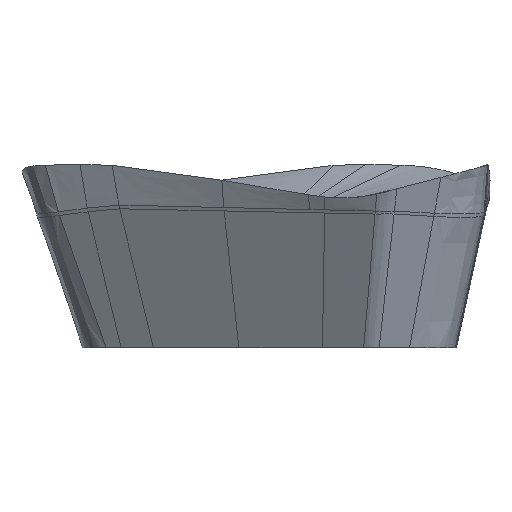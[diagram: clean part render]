
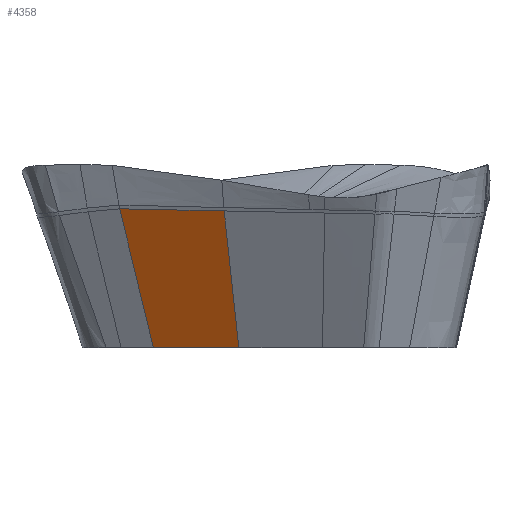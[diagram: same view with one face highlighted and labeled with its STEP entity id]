
A CAD part, left-side view. The second image highlights one B-rep face of the part: STEP entity #4358.
In plain terms, the highlighted free-form (B-spline) face has degree [5, 5] with [6, 6] control points.
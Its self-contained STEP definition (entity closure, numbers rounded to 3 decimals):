
#3545=CARTESIAN_POINT('Vertex',(-2.642,1.525,0.)) ;
#3549=CARTESIAN_POINT('Control Point',(-1.592,3.326,0.)) ;
#3550=CARTESIAN_POINT('Control Point',(-1.78,3.003,0.)) ;
#3551=CARTESIAN_POINT('Control Point',(-1.97,2.677,0.)) ;
#3552=CARTESIAN_POINT('Control Point',(-2.158,2.354,0.)) ;
#3553=CARTESIAN_POINT('Control Point',(-2.369,1.992,0.)) ;
#3554=CARTESIAN_POINT('Control Point',(-2.579,1.632,0.)) ;
#3555=CARTESIAN_POINT('Control Point',(-2.6,1.596,0.)) ;
#3556=CARTESIAN_POINT('Control Point',(-2.621,1.561,0.)) ;
#3557=CARTESIAN_POINT('Control Point',(-2.642,1.525,0.)) ;
#3558=CARTESIAN_POINT('Vertex',(-1.592,3.326,0.)) ;
#4273=CARTESIAN_POINT('Control Point',(-1.592,3.326,0.)) ;
#4274=CARTESIAN_POINT('Control Point',(-1.654,3.468,0.585)) ;
#4275=CARTESIAN_POINT('Control Point',(-1.717,3.61,1.17)) ;
#4276=CARTESIAN_POINT('Control Point',(-1.779,3.751,1.755)) ;
#4277=CARTESIAN_POINT('Control Point',(-1.842,3.893,2.34)) ;
#4278=CARTESIAN_POINT('Control Point',(-1.905,4.035,2.925)) ;
#4279=CARTESIAN_POINT('Vertex',(-1.905,4.035,2.925)) ;
#4298=CARTESIAN_POINT('Control Point',(-1.57,3.277,-0.2)) ;
#4299=CARTESIAN_POINT('Control Point',(-1.777,2.922,-0.2)) ;
#4300=CARTESIAN_POINT('Control Point',(-1.983,2.569,-0.2)) ;
#4301=CARTESIAN_POINT('Control Point',(-2.192,2.211,-0.2)) ;
#4302=CARTESIAN_POINT('Control Point',(-2.397,1.86,-0.2)) ;
#4303=CARTESIAN_POINT('Control Point',(-2.605,1.503,-0.2)) ;
#4304=CARTESIAN_POINT('Control Point',(-1.637,3.429,0.425)) ;
#4305=CARTESIAN_POINT('Control Point',(-1.844,3.074,0.425)) ;
#4306=CARTESIAN_POINT('Control Point',(-2.064,2.695,0.422)) ;
#4307=CARTESIAN_POINT('Control Point',(-2.292,2.303,0.419)) ;
#4308=CARTESIAN_POINT('Control Point',(-2.511,1.926,0.416)) ;
#4309=CARTESIAN_POINT('Control Point',(-2.719,1.569,0.416)) ;
#4310=CARTESIAN_POINT('Control Point',(-1.704,3.58,1.05)) ;
#4311=CARTESIAN_POINT('Control Point',(-1.925,3.2,1.047)) ;
#4312=CARTESIAN_POINT('Control Point',(-2.153,2.807,1.043)) ;
#4313=CARTESIAN_POINT('Control Point',(-2.384,2.409,1.039)) ;
#4314=CARTESIAN_POINT('Control Point',(-2.612,2.017,1.035)) ;
#4315=CARTESIAN_POINT('Control Point',(-2.833,1.636,1.032)) ;
#4316=CARTESIAN_POINT('Control Point',(-1.771,3.732,1.675)) ;
#4317=CARTESIAN_POINT('Control Point',(-2.011,3.318,1.669)) ;
#4318=CARTESIAN_POINT('Control Point',(-2.244,2.915,1.664)) ;
#4319=CARTESIAN_POINT('Control Point',(-2.474,2.519,1.659)) ;
#4320=CARTESIAN_POINT('Control Point',(-2.708,2.116,1.654)) ;
#4321=CARTESIAN_POINT('Control Point',(-2.948,1.702,1.648)) ;
#4322=CARTESIAN_POINT('Control Point',(-1.838,3.884,2.3)) ;
#4323=CARTESIAN_POINT('Control Point',(-2.092,3.444,2.291)) ;
#4324=CARTESIAN_POINT('Control Point',(-2.333,3.027,2.285)) ;
#4325=CARTESIAN_POINT('Control Point',(-2.567,2.625,2.28)) ;
#4326=CARTESIAN_POINT('Control Point',(-2.809,2.207,2.273)) ;
#4327=CARTESIAN_POINT('Control Point',(-3.062,1.768,2.264)) ;
#4328=CARTESIAN_POINT('Control Point',(-1.905,4.035,2.925)) ;
#4329=CARTESIAN_POINT('Control Point',(-2.159,3.596,2.916)) ;
#4330=CARTESIAN_POINT('Control Point',(-2.414,3.153,2.907)) ;
#4331=CARTESIAN_POINT('Control Point',(-2.667,2.717,2.898)) ;
#4332=CARTESIAN_POINT('Control Point',(-2.923,2.273,2.889)) ;
#4333=CARTESIAN_POINT('Control Point',(-3.177,1.835,2.88)) ;
#4335=CARTESIAN_POINT('Control Point',(-2.642,1.525,0.)) ;
#4336=CARTESIAN_POINT('Control Point',(-2.749,1.587,0.576)) ;
#4337=CARTESIAN_POINT('Control Point',(-2.856,1.649,1.152)) ;
#4338=CARTESIAN_POINT('Control Point',(-2.963,1.711,1.728)) ;
#4339=CARTESIAN_POINT('Control Point',(-3.07,1.773,2.304)) ;
#4340=CARTESIAN_POINT('Control Point',(-3.177,1.835,2.88)) ;
#4341=CARTESIAN_POINT('Vertex',(-3.177,1.835,2.88)) ;
#4345=CARTESIAN_POINT('Control Point',(-1.905,4.035,2.925)) ;
#4346=CARTESIAN_POINT('Control Point',(-2.159,3.596,2.916)) ;
#4347=CARTESIAN_POINT('Control Point',(-2.414,3.153,2.907)) ;
#4348=CARTESIAN_POINT('Control Point',(-2.667,2.717,2.898)) ;
#4349=CARTESIAN_POINT('Control Point',(-2.923,2.273,2.889)) ;
#4350=CARTESIAN_POINT('Control Point',(-3.177,1.835,2.88)) ;
#4353=ORIENTED_EDGE('',*,*,#3560,.T.) ;
#4354=ORIENTED_EDGE('',*,*,#4343,.F.) ;
#4355=ORIENTED_EDGE('',*,*,#4351,.F.) ;
#4356=ORIENTED_EDGE('',*,*,#4281,.T.) ;
#4358=ADVANCED_FACE('CUT',(#4357),#4297,.F.) ;
#3548=B_SPLINE_CURVE_WITH_KNOTS('',5,(#3549,#3550,#3551,#3552,#3553,#3554,#3555,#3556,#3557),.UNSPECIFIED.,.F.,.U.,(6,3,6),(0.,2.94,3.265),.UNSPECIFIED.) ;
#4272=B_SPLINE_CURVE_WITH_KNOTS('',5,(#4273,#4274,#4275,#4276,#4277,#4278),.UNSPECIFIED.,.F.,.U.,(6,6),(0.202,3.161),.UNSPECIFIED.) ;
#4334=B_SPLINE_CURVE_WITH_KNOTS('',5,(#4335,#4336,#4337,#4338,#4339,#4340),.UNSPECIFIED.,.F.,.U.,(6,6),(0.205,3.161),.UNSPECIFIED.) ;
#4344=B_SPLINE_CURVE_WITH_KNOTS('',5,(#4345,#4346,#4347,#4348,#4349,#4350),.UNSPECIFIED.,.F.,.U.,(6,6),(2.84,5.341),.UNSPECIFIED.) ;
#4297=B_SPLINE_SURFACE_WITH_KNOTS('',5,5,((#4298,#4299,#4300,#4301,#4302,#4303),(#4304,#4305,#4306,#4307,#4308,#4309),(#4310,#4311,#4312,#4313,#4314,#4315),(#4316,#4317,#4318,#4319,#4320,#4321),(#4322,#4323,#4324,#4325,#4326,#4327),(#4328,#4329,#4330,#4331,#4332,#4333)),.UNSPECIFIED.,.F.,.F.,.U.,(6,6),(6,6),(0.,3.161),(15.706,18.206),.UNSPECIFIED.) ;
#3560=EDGE_CURVE('',#3559,#3546,#3548,.T.) ;
#4281=EDGE_CURVE('',#4280,#3559,#4272,.F.) ;
#4343=EDGE_CURVE('',#4342,#3546,#4334,.F.) ;
#4351=EDGE_CURVE('',#4280,#4342,#4344,.T.) ;
#4352=EDGE_LOOP('',(#4353,#4354,#4355,#4356)) ;
#4357=FACE_OUTER_BOUND('',#4352,.T.) ;
#3546=VERTEX_POINT('',#3545) ;
#3559=VERTEX_POINT('',#3558) ;
#4280=VERTEX_POINT('',#4279) ;
#4342=VERTEX_POINT('',#4341) ;
